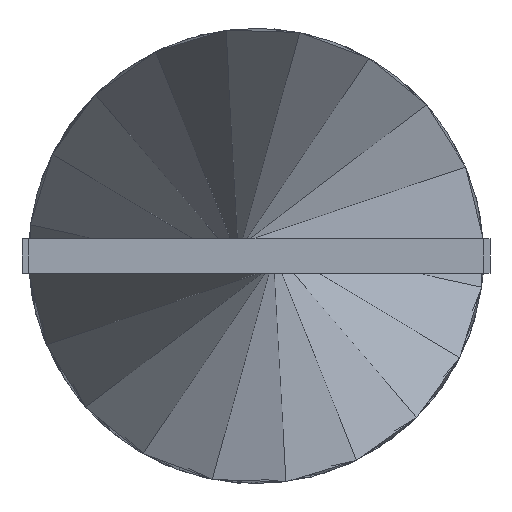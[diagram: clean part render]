
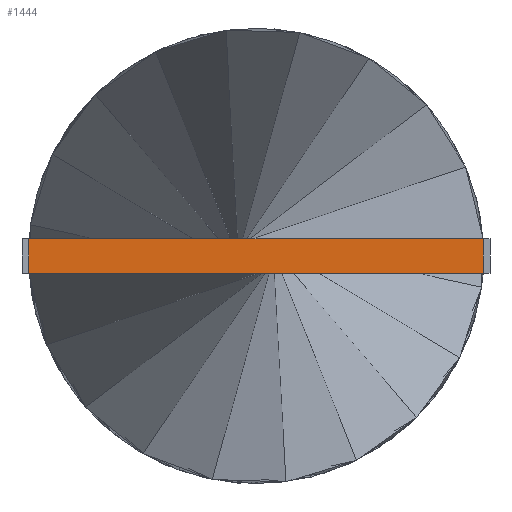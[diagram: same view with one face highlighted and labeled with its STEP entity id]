
A CAD part, front view. The second image highlights one B-rep face of the part: STEP entity #1444.
In plain terms, the highlighted planar face has unit normal (0, -1, 0).
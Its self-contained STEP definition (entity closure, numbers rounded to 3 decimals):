
#104 = CARTESIAN_POINT ( 'NONE',  ( -9.9, 0., 0.75 ) ) ;
#175 = CARTESIAN_POINT ( 'NONE',  ( -9.9, 0., -0.75 ) ) ;
#197 = VECTOR ( 'NONE', #962, 1000. ) ;
#213 = VECTOR ( 'NONE', #1327, 1000. ) ;
#296 = DIRECTION ( 'NONE',  ( 0., 0., -1. ) ) ;
#301 = ORIENTED_EDGE ( 'NONE', *, *, #701, .T. ) ;
#314 = CARTESIAN_POINT ( 'NONE',  ( 9.9, 0., -0.75 ) ) ;
#422 = FACE_OUTER_BOUND ( 'NONE', #1021, .T. ) ;
#427 = VECTOR ( 'NONE', #761, 1000. ) ;
#428 = EDGE_CURVE ( 'NONE', #458, #1174, #1412, .T. ) ;
#457 = ORIENTED_EDGE ( 'NONE', *, *, #1379, .T. ) ;
#458 = VERTEX_POINT ( 'NONE', #641 ) ;
#494 = VERTEX_POINT ( 'NONE', #314 ) ;
#581 = EDGE_CURVE ( 'NONE', #1174, #989, #632, .T. ) ;
#588 = VECTOR ( 'NONE', #1028, 1000. ) ;
#632 = LINE ( 'NONE', #104, #588 ) ;
#641 = CARTESIAN_POINT ( 'NONE',  ( -9.9, 0., -0.75 ) ) ;
#701 = EDGE_CURVE ( 'NONE', #458, #494, #1124, .T. ) ;
#721 = ORIENTED_EDGE ( 'NONE', *, *, #428, .F. ) ;
#761 = DIRECTION ( 'NONE',  ( 0., 0., 1. ) ) ;
#790 = ORIENTED_EDGE ( 'NONE', *, *, #581, .F. ) ;
#813 = CARTESIAN_POINT ( 'NONE',  ( -9.9, 0., -0.75 ) ) ;
#962 = DIRECTION ( 'NONE',  ( 1., 0., 0. ) ) ;
#964 = CARTESIAN_POINT ( 'NONE',  ( -9.9, 0., 0.75 ) ) ;
#988 = DIRECTION ( 'NONE',  ( 0., -1., 0. ) ) ;
#989 = VERTEX_POINT ( 'NONE', #1493 ) ;
#1021 = EDGE_LOOP ( 'NONE', ( #457, #790, #721, #301 ) ) ;
#1028 = DIRECTION ( 'NONE',  ( 1., 0., 0. ) ) ;
#1100 = PLANE ( 'NONE',  #1364 ) ;
#1124 = LINE ( 'NONE', #1298, #197 ) ;
#1174 = VERTEX_POINT ( 'NONE', #964 ) ;
#1217 = CARTESIAN_POINT ( 'NONE',  ( 9.9, 0., -0.75 ) ) ;
#1298 = CARTESIAN_POINT ( 'NONE',  ( -9.9, 0., -0.75 ) ) ;
#1327 = DIRECTION ( 'NONE',  ( 0., 0., 1. ) ) ;
#1361 = LINE ( 'NONE', #1217, #213 ) ;
#1364 = AXIS2_PLACEMENT_3D ( 'NONE', #175, #988, #296 ) ;
#1379 = EDGE_CURVE ( 'NONE', #494, #989, #1361, .T. ) ;
#1412 = LINE ( 'NONE', #813, #427 ) ;
#1444 = ADVANCED_FACE ( 'NONE', ( #422 ), #1100, .T. ) ;
#1493 = CARTESIAN_POINT ( 'NONE',  ( 9.9, 0., 0.75 ) ) ;
